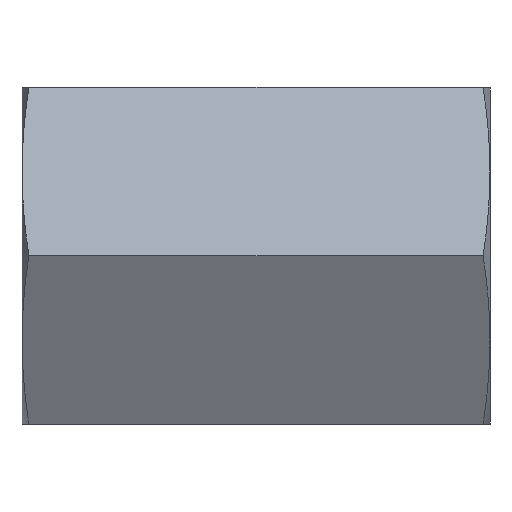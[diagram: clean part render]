
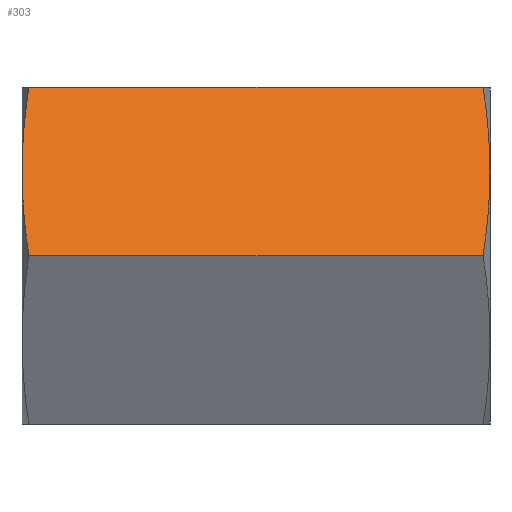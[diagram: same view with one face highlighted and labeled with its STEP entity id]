
A CAD part, top view. The second image highlights one B-rep face of the part: STEP entity #303.
In plain terms, the highlighted planar face has unit normal (0, 0.5, 0.866).
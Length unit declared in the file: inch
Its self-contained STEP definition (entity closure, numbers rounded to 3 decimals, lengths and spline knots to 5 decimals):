
#303 = ADVANCED_FACE( '', ( #798 ), #799, .F. );
#798 = FACE_OUTER_BOUND( '', #1522, .T. );
#799 = PLANE( '', #1523 );
#1522 = EDGE_LOOP( '', ( #8399, #8400, #8401, #8402, #8403, #8404 ) );
#1523 = AXIS2_PLACEMENT_3D( '', #8405, #8406, #8407 );
#8399 = ORIENTED_EDGE( '', *, *, #10589, .F. );
#8400 = ORIENTED_EDGE( '', *, *, #10590, .T. );
#8401 = ORIENTED_EDGE( '', *, *, #10591, .F. );
#8402 = ORIENTED_EDGE( '', *, *, #10592, .F. );
#8403 = ORIENTED_EDGE( '', *, *, #10593, .F. );
#8404 = ORIENTED_EDGE( '', *, *, #10594, .F. );
#8405 = CARTESIAN_POINT( '', ( 6.255, 2.25, 1.29904 ) );
#8406 = DIRECTION( '', ( 0., -0.5, -0.866 ) );
#8407 = DIRECTION( '', ( 0., 0.866, -0.5 ) );
#10589 = EDGE_CURVE( '', #11512, #11513, #11514, .T. );
#10590 = EDGE_CURVE( '', #11512, #11515, #11516, .T. );
#10591 = EDGE_CURVE( '', #11517, #11515, #11518, .T. );
#10592 = EDGE_CURVE( '', #11519, #11517, #11520, .T. );
#10593 = EDGE_CURVE( '', #11521, #11519, #11522, .T. );
#10594 = EDGE_CURVE( '', #11513, #11521, #11523, .T. );
#11512 = VERTEX_POINT( '', #12981 );
#11513 = VERTEX_POINT( '', #12982 );
#11514 = B_SPLINE_CURVE_WITH_KNOTS( '', 3, ( #12983, #12984, #12985, #12986, #12987, #12988 ), .UNSPECIFIED., .F., .F., ( 4, 2, 4 ), ( 0., 0.0165, 0.033 ), .UNSPECIFIED. );
#11515 = VERTEX_POINT( '', #12989 );
#11516 = LINE( '', #12990, #12991 );
#11517 = VERTEX_POINT( '', #12992 );
#11518 = B_SPLINE_CURVE_WITH_KNOTS( '', 3, ( #12993, #12994, #12995, #12996, #12997, #12998 ), .UNSPECIFIED., .F., .F., ( 4, 2, 4 ), ( 0.033, 0.04949, 0.06599 ), .UNSPECIFIED. );
#11519 = VERTEX_POINT( '', #12999 );
#11520 = B_SPLINE_CURVE_WITH_KNOTS( '', 3, ( #13000, #13001, #13002, #13003, #13004, #13005 ), .UNSPECIFIED., .F., .F., ( 4, 2, 4 ), ( 0., 0.0165, 0.033 ), .UNSPECIFIED. );
#11521 = VERTEX_POINT( '', #13006 );
#11522 = LINE( '', #13007, #13008 );
#11523 = B_SPLINE_CURVE_WITH_KNOTS( '', 3, ( #13009, #13010, #13011, #13012, #13013, #13014 ), .UNSPECIFIED., .F., .F., ( 4, 2, 4 ), ( 0.033, 0.04949, 0.06599 ), .UNSPECIFIED. );
#12981 = CARTESIAN_POINT( '', ( 6.16173, 2.25, 1.29904 ) );
#12982 = CARTESIAN_POINT( '', ( 6.255, 1.125, 1.94856 ) );
#12983 = CARTESIAN_POINT( '', ( 6.16173, 2.25, 1.29904 ) );
#12984 = CARTESIAN_POINT( '', ( 6.19074, 2.0625, 1.40729 ) );
#12985 = CARTESIAN_POINT( '', ( 6.21429, 1.875, 1.51554 ) );
#12986 = CARTESIAN_POINT( '', ( 6.24647, 1.5, 1.73205 ) );
#12987 = CARTESIAN_POINT( '', ( 6.255, 1.3125, 1.8403 ) );
#12988 = CARTESIAN_POINT( '', ( 6.255, 1.125, 1.94856 ) );
#12989 = CARTESIAN_POINT( '', ( 0.09327, 2.25, 1.29904 ) );
#12990 = CARTESIAN_POINT( '', ( 6.255, 2.25, 1.29904 ) );
#12991 = VECTOR( '', #17767, 39.37008 );
#12992 = CARTESIAN_POINT( '', ( 0., 1.125, 1.94856 ) );
#12993 = CARTESIAN_POINT( '', ( 0., 1.125, 1.94856 ) );
#12994 = CARTESIAN_POINT( '', ( 0., 1.3125, 1.8403 ) );
#12995 = CARTESIAN_POINT( '', ( 0.00853, 1.5, 1.73205 ) );
#12996 = CARTESIAN_POINT( '', ( 0.04071, 1.875, 1.51554 ) );
#12997 = CARTESIAN_POINT( '', ( 0.06426, 2.0625, 1.40729 ) );
#12998 = CARTESIAN_POINT( '', ( 0.09327, 2.25, 1.29904 ) );
#12999 = CARTESIAN_POINT( '', ( 0.09327, 0., 2.59808 ) );
#13000 = CARTESIAN_POINT( '', ( 0.09327, 0., 2.59808 ) );
#13001 = CARTESIAN_POINT( '', ( 0.06426, 0.1875, 2.48982 ) );
#13002 = CARTESIAN_POINT( '', ( 0.04071, 0.375, 2.38157 ) );
#13003 = CARTESIAN_POINT( '', ( 0.00853, 0.75, 2.16506 ) );
#13004 = CARTESIAN_POINT( '', ( 0., 0.9375, 2.05681 ) );
#13005 = CARTESIAN_POINT( '', ( 0., 1.125, 1.94856 ) );
#13006 = CARTESIAN_POINT( '', ( 6.16173, 0., 2.59808 ) );
#13007 = CARTESIAN_POINT( '', ( 6.255, 0., 2.59808 ) );
#13008 = VECTOR( '', #17768, 39.37008 );
#13009 = CARTESIAN_POINT( '', ( 6.255, 1.125, 1.94856 ) );
#13010 = CARTESIAN_POINT( '', ( 6.255, 0.9375, 2.05681 ) );
#13011 = CARTESIAN_POINT( '', ( 6.24647, 0.75, 2.16506 ) );
#13012 = CARTESIAN_POINT( '', ( 6.21429, 0.375, 2.38157 ) );
#13013 = CARTESIAN_POINT( '', ( 6.19074, 0.1875, 2.48982 ) );
#13014 = CARTESIAN_POINT( '', ( 6.16173, 0., 2.59808 ) );
#17767 = DIRECTION( '', ( -1., 0., 0. ) );
#17768 = DIRECTION( '', ( -1., 0., 0. ) );
